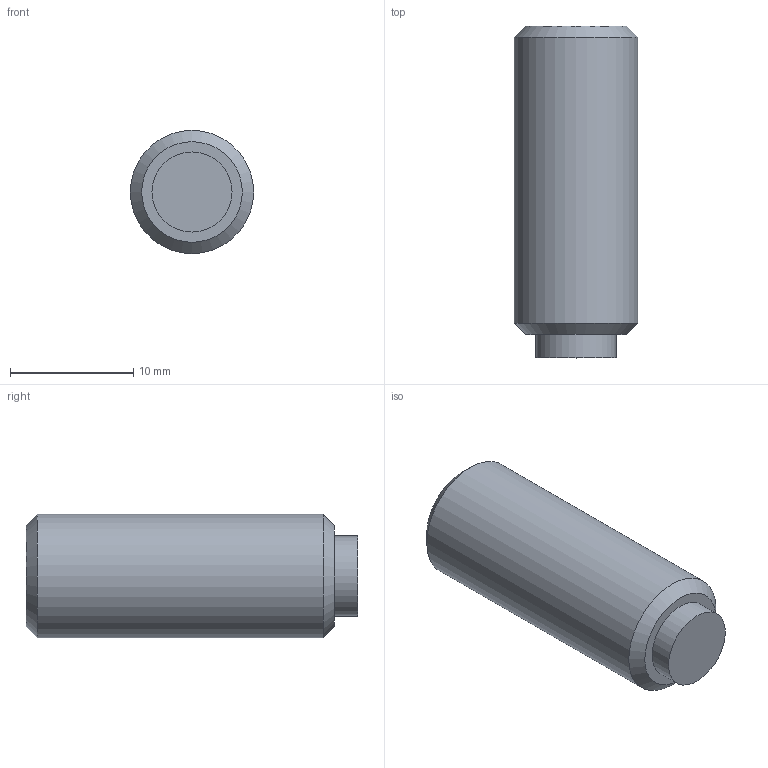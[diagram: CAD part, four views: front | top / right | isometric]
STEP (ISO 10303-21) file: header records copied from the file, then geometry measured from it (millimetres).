
FILE_DESCRIPTION( ( 'STEP AP203' ), '1' );
FILE_NAME( 'C:/Temp/Ganter_Step_05_03_2020/data/3_2/gn913_3/Grub screw GN 913.3-M10-25-KU.stp', '2020-03-13T05:35:39', ( 'License CC BY-ND 4.0' ), ( 'CADENAS' ), ' ', 'PARTsolutions', ' ' );
FILE_SCHEMA( ( 'CONFIG_CONTROL_DESIGN' ) );
Length unit declared in the file: millimetre
Products named in the file (1): _Grub screw GN 913.3-M10-25-KU
Bounding box: 10 x 26.9 x 10 mm (x, y, z)
Volume: 1871.7 mm3; surface area: 1049.1 mm2
Topology: 1 solids, 1 shells, 14 faces, 28 edges, 18 vertices
Faces by surface type: plane 10, cylinder 2, cone 2
Full cylindrical faces by diameter (mm): 6.5 x1, 10 x1
Entity records: 386 total; most frequent: DIRECTION 60, CARTESIAN_POINT 57, ORIENTED_EDGE 48, EDGE_CURVE 24, AXIS2_PLACEMENT_3D 21, EDGE_LOOP 20, VERTEX_POINT 18, LINE 18
